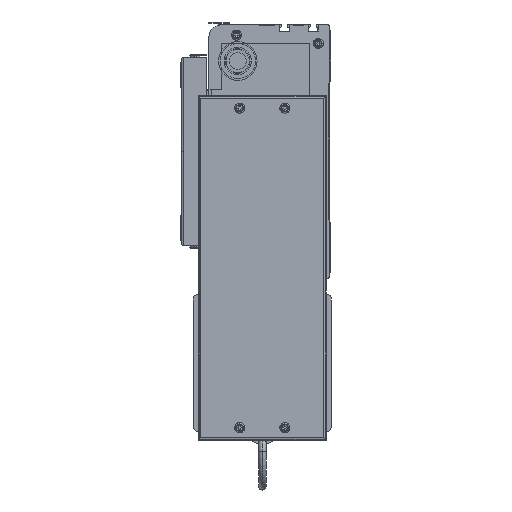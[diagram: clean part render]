
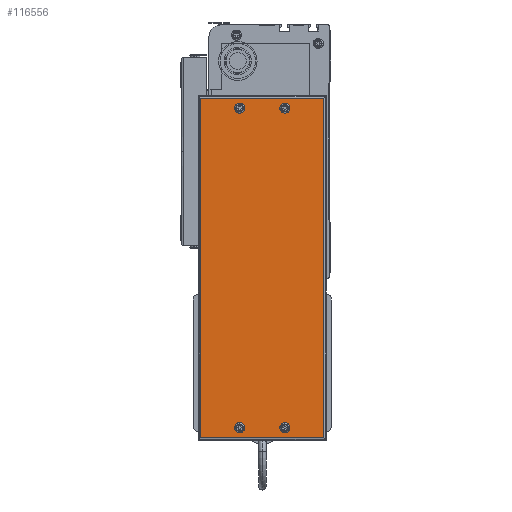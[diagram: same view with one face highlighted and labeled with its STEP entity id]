
A CAD part, left-side view. The second image highlights one B-rep face of the part: STEP entity #116556.
In plain terms, the highlighted planar face has unit normal (-1, 0, 0) as drawn and (1, 0, 0) by its records, which use the part's own axes.
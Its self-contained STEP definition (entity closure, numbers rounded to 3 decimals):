
#1051 = AXIS2_PLACEMENT_3D ( 'NONE', #1151, #1239, #1237 ) ;
#1144 = CIRCLE ( 'NONE', #1051, 2.5 ) ;
#1151 = CARTESIAN_POINT ( 'NONE',  ( 50., 264., -33. ) ) ;
#1237 = DIRECTION ( 'NONE',  ( 0., 0., -1. ) ) ;
#1239 = DIRECTION ( 'NONE',  ( 1., 0., 0. ) ) ;
#29751 = CARTESIAN_POINT ( 'NONE',  ( 50., 10., -71.5 ) ) ;
#30127 = AXIS2_PLACEMENT_3D ( 'NONE', #30147, #30149, #30151 ) ;
#30147 = CARTESIAN_POINT ( 'NONE',  ( 50., 10., -69. ) ) ;
#30149 = DIRECTION ( 'NONE',  ( 1., 0., 0. ) ) ;
#30151 = DIRECTION ( 'NONE',  ( 0., 0., -1. ) ) ;
#30168 = CIRCLE ( 'NONE', #30127, 2.5 ) ;
#30680 = CARTESIAN_POINT ( 'NONE',  ( 50., 264., -71.5 ) ) ;
#31254 = CARTESIAN_POINT ( 'NONE',  ( 50., 10., -35.5 ) ) ;
#34572 = CARTESIAN_POINT ( 'NONE',  ( 50., 10., -30.5 ) ) ;
#34642 = DIRECTION ( 'NONE',  ( 0., 0., -1. ) ) ;
#34643 = DIRECTION ( 'NONE',  ( 1., 0., 0. ) ) ;
#34660 = AXIS2_PLACEMENT_3D ( 'NONE', #34683, #34643, #34642 ) ;
#34670 = CIRCLE ( 'NONE', #34660, 2.5 ) ;
#34683 = CARTESIAN_POINT ( 'NONE',  ( 50., 10., -33. ) ) ;
#34970 = CARTESIAN_POINT ( 'NONE',  ( 50., 10., -66.5 ) ) ;
#35609 = CARTESIAN_POINT ( 'NONE',  ( 50., 264., -66.5 ) ) ;
#35613 = AXIS2_PLACEMENT_3D ( 'NONE', #35726, #35725, #35724 ) ;
#35656 = CIRCLE ( 'NONE', #35613, 2.5 ) ;
#35724 = DIRECTION ( 'NONE',  ( 0., 0., -1. ) ) ;
#35725 = DIRECTION ( 'NONE',  ( 1., 0., 0. ) ) ;
#35726 = CARTESIAN_POINT ( 'NONE',  ( 50., 264., -69. ) ) ;
#116341 = VERTEX_POINT ( 'NONE', #156983 ) ;
#116379 = EDGE_CURVE ( 'NONE', #116548, #116549, #157089, .T. ) ;
#116418 = EDGE_LOOP ( 'NONE', ( #116824, #116670 ) ) ;
#116419 = ORIENTED_EDGE ( 'NONE', *, *, #116543, .T. ) ;
#116420 = EDGE_LOOP ( 'NONE', ( #116546, #116561, #116541, #116419 ) ) ;
#116518 = ORIENTED_EDGE ( 'NONE', *, *, #116837, .F. ) ;
#116523 = EDGE_CURVE ( 'NONE', #116525, #116589, #157949, .T. ) ;
#116525 = VERTEX_POINT ( 'NONE', #157945 ) ;
#116541 = ORIENTED_EDGE ( 'NONE', *, *, #116544, .T. ) ;
#116543 = EDGE_CURVE ( 'NONE', #116341, #116548, #158060, .T. ) ;
#116544 = EDGE_CURVE ( 'NONE', #116567, #116341, #157921, .T. ) ;
#116546 = ORIENTED_EDGE ( 'NONE', *, *, #116379, .T. ) ;
#116548 = VERTEX_POINT ( 'NONE', #158163 ) ;
#116549 = VERTEX_POINT ( 'NONE', #158158 ) ;
#116556 = ADVANCED_FACE ( 'NONE', ( #158134, #158178, #158143, #158124, #158122 ), #158150, .F. ) ;
#116559 = EDGE_CURVE ( 'NONE', #116549, #116567, #158278, .T. ) ;
#116561 = ORIENTED_EDGE ( 'NONE', *, *, #116559, .T. ) ;
#116567 = VERTEX_POINT ( 'NONE', #158263 ) ;
#116589 = VERTEX_POINT ( 'NONE', #158310 ) ;
#116607 = EDGE_LOOP ( 'NONE', ( #116707, #116790 ) ) ;
#116646 = EDGE_CURVE ( 'NONE', #131297, #131932, #159356, .T. ) ;
#116670 = ORIENTED_EDGE ( 'NONE', *, *, #131394, .F. ) ;
#116707 = ORIENTED_EDGE ( 'NONE', *, *, #116780, .F. ) ;
#116774 = ORIENTED_EDGE ( 'NONE', *, *, #116523, .F. ) ;
#116776 = EDGE_LOOP ( 'NONE', ( #116518, #116774 ) ) ;
#116780 = EDGE_CURVE ( 'NONE', #131723, #131826, #160270, .T. ) ;
#116790 = ORIENTED_EDGE ( 'NONE', *, *, #131832, .F. ) ;
#116792 = EDGE_CURVE ( 'NONE', #151667, #152072, #160240, .T. ) ;
#116824 = ORIENTED_EDGE ( 'NONE', *, *, #116646, .F. ) ;
#116834 = ORIENTED_EDGE ( 'NONE', *, *, #116792, .F. ) ;
#116837 = EDGE_CURVE ( 'NONE', #116589, #116525, #1144, .T. ) ;
#116838 = EDGE_LOOP ( 'NONE', ( #116834, #116867 ) ) ;
#116867 = ORIENTED_EDGE ( 'NONE', *, *, #152113, .F. ) ;
#131297 = VERTEX_POINT ( 'NONE', #29751 ) ;
#131394 = EDGE_CURVE ( 'NONE', #131932, #131297, #30168, .T. ) ;
#131723 = VERTEX_POINT ( 'NONE', #31254 ) ;
#131826 = VERTEX_POINT ( 'NONE', #34572 ) ;
#131832 = EDGE_CURVE ( 'NONE', #131826, #131723, #34670, .T. ) ;
#131932 = VERTEX_POINT ( 'NONE', #34970 ) ;
#151667 = VERTEX_POINT ( 'NONE', #30680 ) ;
#152072 = VERTEX_POINT ( 'NONE', #35609 ) ;
#152113 = EDGE_CURVE ( 'NONE', #152072, #151667, #35656, .T. ) ;
#156983 = CARTESIAN_POINT ( 'NONE',  ( 50., 272., -100. ) ) ;
#157089 = LINE ( 'NONE', #157168, #157163 ) ;
#157161 = DIRECTION ( 'NONE',  ( 0., -1., 0. ) ) ;
#157163 = VECTOR ( 'NONE', #157161, 1000. ) ;
#157168 = CARTESIAN_POINT ( 'NONE',  ( 50., 274., -2. ) ) ;
#157921 = LINE ( 'NONE', #157986, #157983 ) ;
#157935 = CARTESIAN_POINT ( 'NONE',  ( 50., 272., 0. ) ) ;
#157940 = DIRECTION ( 'NONE',  ( 0., 0., -1. ) ) ;
#157942 = DIRECTION ( 'NONE',  ( 1., 0., 0. ) ) ;
#157944 = CARTESIAN_POINT ( 'NONE',  ( 50., 264., -33. ) ) ;
#157945 = CARTESIAN_POINT ( 'NONE',  ( 50., 264., -30.5 ) ) ;
#157949 = CIRCLE ( 'NONE', #157957, 2.5 ) ;
#157957 = AXIS2_PLACEMENT_3D ( 'NONE', #157944, #157942, #157940 ) ;
#157982 = DIRECTION ( 'NONE',  ( 0., 1., 0. ) ) ;
#157983 = VECTOR ( 'NONE', #157982, 1000. ) ;
#157986 = CARTESIAN_POINT ( 'NONE',  ( 50., 274., -100. ) ) ;
#157999 = DIRECTION ( 'NONE',  ( 0., 0., 1. ) ) ;
#158002 = VECTOR ( 'NONE', #157999, 1000. ) ;
#158060 = LINE ( 'NONE', #157935, #158002 ) ;
#158109 = DIRECTION ( 'NONE',  ( 0., 0., 1. ) ) ;
#158110 = DIRECTION ( 'NONE',  ( -1., 0., 0. ) ) ;
#158122 = FACE_BOUND ( 'NONE', #116776, .T. ) ;
#158124 = FACE_BOUND ( 'NONE', #116838, .T. ) ;
#158125 = AXIS2_PLACEMENT_3D ( 'NONE', #158154, #158110, #158109 ) ;
#158134 = FACE_OUTER_BOUND ( 'NONE', #116420, .T. ) ;
#158143 = FACE_BOUND ( 'NONE', #116607, .T. ) ;
#158150 = PLANE ( 'NONE',  #158125 ) ;
#158154 = CARTESIAN_POINT ( 'NONE',  ( 50., 274., 0. ) ) ;
#158158 = CARTESIAN_POINT ( 'NONE',  ( 50., 2., -2. ) ) ;
#158163 = CARTESIAN_POINT ( 'NONE',  ( 50., 272., -2. ) ) ;
#158178 = FACE_BOUND ( 'NONE', #116418, .T. ) ;
#158263 = CARTESIAN_POINT ( 'NONE',  ( 50., 2., -100. ) ) ;
#158269 = DIRECTION ( 'NONE',  ( 0., 0., -1. ) ) ;
#158271 = VECTOR ( 'NONE', #158269, 1000. ) ;
#158272 = CARTESIAN_POINT ( 'NONE',  ( 50., 2., 0. ) ) ;
#158278 = LINE ( 'NONE', #158272, #158271 ) ;
#158310 = CARTESIAN_POINT ( 'NONE',  ( 50., 264., -35.5 ) ) ;
#159356 = CIRCLE ( 'NONE', #159372, 2.5 ) ;
#159369 = CARTESIAN_POINT ( 'NONE',  ( 50., 10., -69. ) ) ;
#159372 = AXIS2_PLACEMENT_3D ( 'NONE', #159369, #159547, #159546 ) ;
#159546 = DIRECTION ( 'NONE',  ( 0., 0., -1. ) ) ;
#159547 = DIRECTION ( 'NONE',  ( 1., 0., 0. ) ) ;
#160095 = AXIS2_PLACEMENT_3D ( 'NONE', #160253, #160252, #160251 ) ;
#160240 = CIRCLE ( 'NONE', #160249, 2.5 ) ;
#160249 = AXIS2_PLACEMENT_3D ( 'NONE', #160387, #160375, #160374 ) ;
#160251 = DIRECTION ( 'NONE',  ( 0., 0., -1. ) ) ;
#160252 = DIRECTION ( 'NONE',  ( 1., 0., 0. ) ) ;
#160253 = CARTESIAN_POINT ( 'NONE',  ( 50., 10., -33. ) ) ;
#160270 = CIRCLE ( 'NONE', #160095, 2.5 ) ;
#160374 = DIRECTION ( 'NONE',  ( 0., 0., -1. ) ) ;
#160375 = DIRECTION ( 'NONE',  ( 1., 0., 0. ) ) ;
#160387 = CARTESIAN_POINT ( 'NONE',  ( 50., 264., -69. ) ) ;
